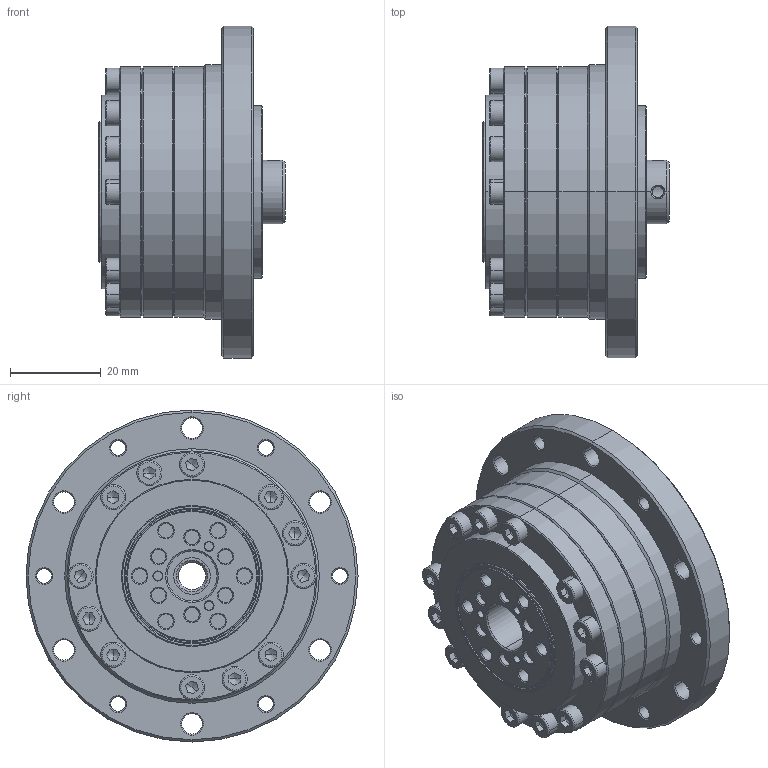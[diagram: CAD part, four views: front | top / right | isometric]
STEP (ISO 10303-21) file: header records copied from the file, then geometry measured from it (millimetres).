
FILE_DESCRIPTION(('STEP AP214'),'1');
FILE_NAME('cctmp_EB0CE632-9774-400B-8156-2FF62E1CF51F_2025_03_06_11_16_52_0455_92604..stp','2025-03-06T10:16:52',('HIWIN GmbH'),('CADClick - www.CADClick.com'),'Spatial InterOp 3D',' ','unknown authorization');
FILE_SCHEMA(('AUTOMOTIVE_DESIGN'));
Length unit declared in the file: millimetre
Products named in the file (2): DSC-14-XX-PO_FILE; 2025_03_06_11_16_52_0455
Assembly tree (1 placements, depth 2):
  DSC-14-XX-PO_FILE
    2025_03_06_11_16_52_0455
Bounding box: 41 x 73 x 73 mm (x, y, z)
Volume: 86143 mm3; surface area: 20940.6 mm2
Topology: 1 solids, 1 shells, 785 faces, 2024 edges, 1240 vertices
Faces by surface type: cylinder 303, plane 190, cone 156, torus 86, sphere 46, bspline 4
Entity records: 32677 total; most frequent: CARTESIAN_POINT 6777, DIRECTION 4580, ORIENTED_EDGE 4000, AXIS2_PLACEMENT_3D 1981, EDGE_CURVE 1954, VERTEX_POINT 1240, CIRCLE 1198, EDGE_LOOP 884
